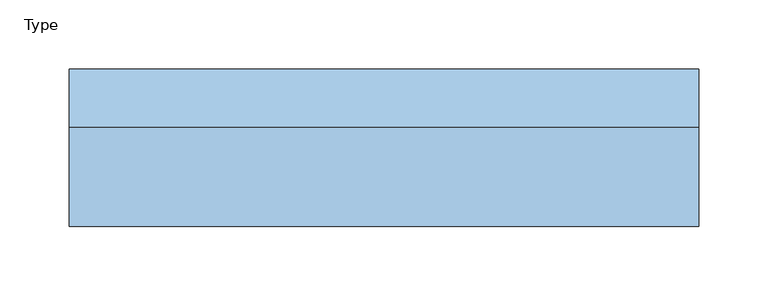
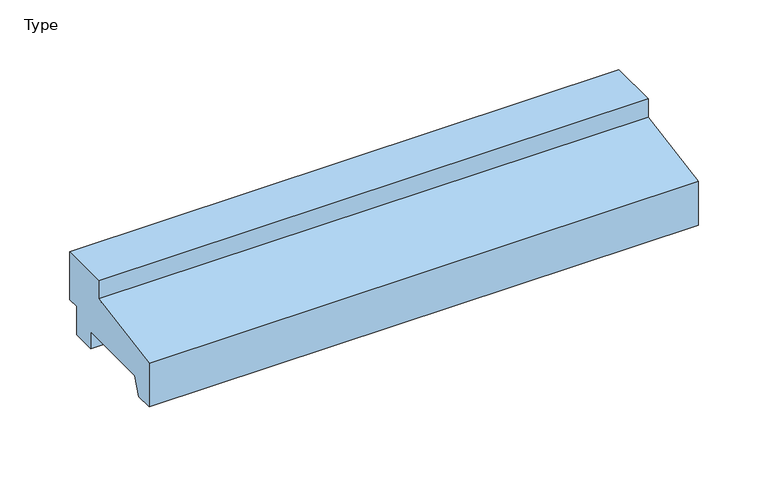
"""IFC4 building model written with IfcOpenShell, lengths in millimetres: window geometry, NLRS_30_MC_onderdorpel_bis_67x114 : Type."""

from ifc_helpers import new_model, si_unit, frame, origin, place, context, project, spatial, polyline, outline, extrude, source, transform, mapped, element, save


def type_fa8d7bbd(model_context):
    return source(origin(), model_context, "Body", "SweptSolid", [
        extrude(outline(polyline([(0.0, 38.3), (72.0, 51.0), (72.0, 67.0), (114.0, 67.0), (114.0, 25.0), (104.0, 25.0), (104.0, 0.0), (84.0, 0.0), (84.0, 15.0), (20.3, 15.0), (15.0, 0.0), (0.0, 0.0), (0.0, 38.3)])), frame((-227.5, 0.0, 0.0), z_axis=(1.0, 0.0, 0.0), x_axis=(0.0, 1.0, 0.0)), (0.0, 0.0, 1.0), 455.0),
    ])


if __name__ == "__main__":
    model = new_model("IFC4")
    model_context = context("Model", 3, world=origin())
    ifc_project = project(units=[si_unit("LENGTHUNIT", "METRE", prefix="MILLI")], contexts=[model_context])
    site = spatial("IfcSite", under=ifc_project)
    building = spatial("IfcBuilding", under=site)
    placement = place(None, origin())
    ifc_type_shape = type_fa8d7bbd(model_context)
    element("IfcWindow", 1, ObjectType="NLRS_30_MC_onderdorpel_bis_67x114 : Type", at=placement, inside=building, context=model_context, shape_type="MappedRepresentation", body=[
        mapped(ifc_type_shape, transform((0.0, 0.0, 0.0), x_axis=(1.0, 0.0, 0.0), y_axis=(0.0, 1.0, 0.0), z_axis=(0.0, 0.0, 1.0))),
    ])
    save(model, "model.ifc")
